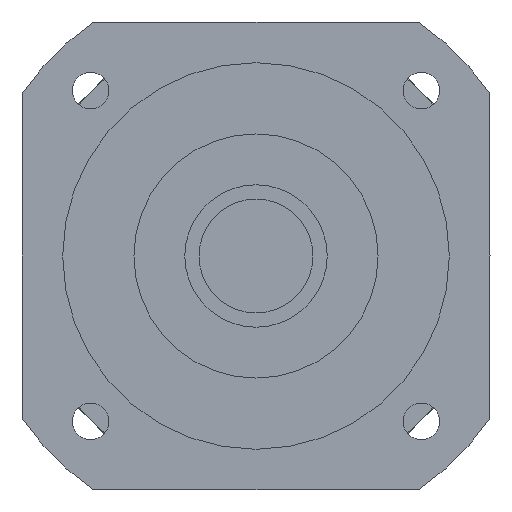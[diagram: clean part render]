
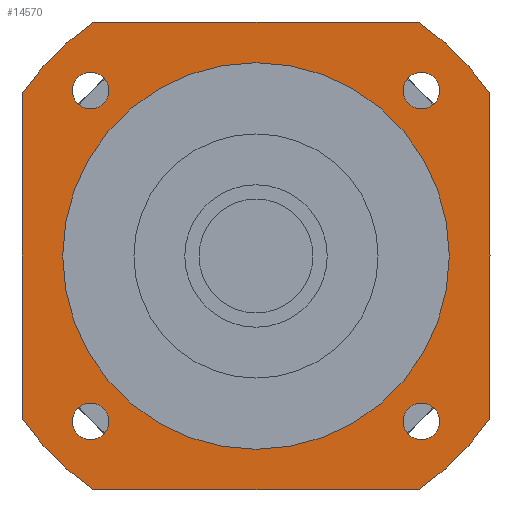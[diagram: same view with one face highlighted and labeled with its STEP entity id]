
A CAD part, left-side view. The second image highlights one B-rep face of the part: STEP entity #14570.
In plain terms, the highlighted planar face has unit normal (-1, 0, 0) as drawn and (0, 0, -1) by its records, which use the part's own axes.
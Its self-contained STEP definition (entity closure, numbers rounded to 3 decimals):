
#11880=CARTESIAN_POINT('',(-39.922,57.5,-65.6));
#11890=VERTEX_POINT('',#11880);
#11920=CARTESIAN_POINT('',(-57.5,57.5,-65.6));
#11930=DIRECTION('',(1.,0.,0.));
#11940=VECTOR('',#11930,1000.);
#11950=LINE('',#11920,#11940);
#11960=CARTESIAN_POINT('',(39.922,57.5,-65.6));
#11970=VERTEX_POINT('',#11960);
#11980=EDGE_CURVE('',#11890,#11970,#11950,.T.);
#12160=CARTESIAN_POINT('',(0.,0.,
-65.6));
#12170=DIRECTION('',(0.,0.,-1.));
#12180=DIRECTION('',(1.,0.,0.));
#12190=AXIS2_PLACEMENT_3D('',#12160,#12170,#12180);
#12200=CIRCLE('',#12190,70.);
#12210=CARTESIAN_POINT('',(57.5,39.922,-65.6));
#12220=VERTEX_POINT('',#12210);
#12230=EDGE_CURVE('',#11970,#12220,#12200,.T.);
#12410=CARTESIAN_POINT('',(57.5,57.5,-65.6));
#12420=DIRECTION('',(0.,-1.,0.));
#12430=VECTOR('',#12420,1000.);
#12440=LINE('',#12410,#12430);
#12450=CARTESIAN_POINT('',(57.5,-39.922,-65.6));
#12460=VERTEX_POINT('',#12450);
#12470=EDGE_CURVE('',#12220,#12460,#12440,.T.);
#12650=CARTESIAN_POINT('',(0.,0.,
-65.6));
#12660=DIRECTION('',(0.,0.,-1.));
#12670=DIRECTION('',(1.,0.,0.));
#12680=AXIS2_PLACEMENT_3D('',#12650,#12660,#12670);
#12690=CIRCLE('',#12680,70.);
#12700=CARTESIAN_POINT('',(39.922,-57.5,-65.6));
#12710=VERTEX_POINT('',#12700);
#12720=EDGE_CURVE('',#12460,#12710,#12690,.T.);
#12900=CARTESIAN_POINT('',(57.5,-57.5,-65.6));
#12910=DIRECTION('',(-1.,0.,0.));
#12920=VECTOR('',#12910,1000.);
#12930=LINE('',#12900,#12920);
#12940=CARTESIAN_POINT('',(-39.922,-57.5,-65.6));
#12950=VERTEX_POINT('',#12940);
#12960=EDGE_CURVE('',#12710,#12950,#12930,.T.);
#13140=CARTESIAN_POINT('',(0.,0.,
-65.6));
#13150=DIRECTION('',(0.,0.,-1.));
#13160=DIRECTION('',(1.,0.,0.));
#13170=AXIS2_PLACEMENT_3D('',#13140,#13150,#13160);
#13180=CIRCLE('',#13170,70.);
#13190=CARTESIAN_POINT('',(-57.5,-39.922,-65.6));
#13200=VERTEX_POINT('',#13190);
#13210=EDGE_CURVE('',#12950,#13200,#13180,.T.);
#13390=CARTESIAN_POINT('',(-57.5,-57.5,-65.6));
#13400=DIRECTION('',(0.,1.,0.));
#13410=VECTOR('',#13400,1000.);
#13420=LINE('',#13390,#13410);
#13430=CARTESIAN_POINT('',(-57.5,39.922,-65.6));
#13440=VERTEX_POINT('',#13430);
#13450=EDGE_CURVE('',#13200,#13440,#13420,.T.);
#13570=CARTESIAN_POINT('',(57.5,57.5,-65.6));
#13580=DIRECTION('',(0.,0.,-1.));
#13590=DIRECTION('',(1.,0.,0.));
#13600=AXIS2_PLACEMENT_3D('',#13570,#13580,#13590);
#13610=PLANE('',#13600);
#13620=CARTESIAN_POINT('',(-40.659,-40.659,-65.6));
#13630=DIRECTION('',(0.,0.,-1.));
#13640=DIRECTION('',(0.,-1.,0.));
#13650=AXIS2_PLACEMENT_3D('',#13620,#13630,#13640);
#13660=CIRCLE('',#13650,4.5);
#13670=CARTESIAN_POINT('',(-40.659,-45.159,-65.6));
#13680=VERTEX_POINT('',#13670);
#13690=CARTESIAN_POINT('',(-40.659,-36.159,-65.6));
#13700=VERTEX_POINT('',#13690);
#13710=EDGE_CURVE('',#13680,#13700,#13660,.T.);
#13720=ORIENTED_EDGE('',*,*,#13710,.F.);
#13730=EDGE_CURVE('',#13700,#13680,#13660,.T.);
#13740=ORIENTED_EDGE('',*,*,#13730,.F.);
#13750=EDGE_LOOP('',(#13740,#13720));
#13760=FACE_BOUND('',#13750,.T.);
#13770=CARTESIAN_POINT('',(-40.659,40.659,-65.6));
#13780=DIRECTION('',(0.,0.,-1.));
#13790=DIRECTION('',(-1.,0.,0.));
#13800=AXIS2_PLACEMENT_3D('',#13770,#13780,#13790);
#13810=CIRCLE('',#13800,4.5);
#13820=CARTESIAN_POINT('',(-45.159,40.659,-65.6));
#13830=VERTEX_POINT('',#13820);
#13840=CARTESIAN_POINT('',(-36.159,40.659,-65.6));
#13850=VERTEX_POINT('',#13840);
#13860=EDGE_CURVE('',#13830,#13850,#13810,.T.);
#13870=ORIENTED_EDGE('',*,*,#13860,.F.);
#13880=EDGE_CURVE('',#13850,#13830,#13810,.T.);
#13890=ORIENTED_EDGE('',*,*,#13880,.F.);
#13900=EDGE_LOOP('',(#13890,#13870));
#13910=FACE_BOUND('',#13900,.T.);
#13920=CARTESIAN_POINT('',(40.659,40.659,-65.6));
#13930=DIRECTION('',(0.,0.,-1.));
#13940=DIRECTION('',(0.,1.,0.));
#13950=AXIS2_PLACEMENT_3D('',#13920,#13930,#13940);
#13960=CIRCLE('',#13950,4.5);
#13970=CARTESIAN_POINT('',(40.659,45.159,-65.6));
#13980=VERTEX_POINT('',#13970);
#13990=CARTESIAN_POINT('',(40.659,36.159,-65.6));
#14000=VERTEX_POINT('',#13990);
#14010=EDGE_CURVE('',#13980,#14000,#13960,.T.);
#14020=ORIENTED_EDGE('',*,*,#14010,.F.);
#14030=EDGE_CURVE('',#14000,#13980,#13960,.T.);
#14040=ORIENTED_EDGE('',*,*,#14030,.F.);
#14050=EDGE_LOOP('',(#14040,#14020));
#14060=FACE_BOUND('',#14050,.T.);
#14070=CARTESIAN_POINT('',(0.,0.,
-65.6));
#14080=DIRECTION('',(0.,0.,1.));
#14090=DIRECTION('',(0.,1.,0.));
#14100=AXIS2_PLACEMENT_3D('',#14070,#14080,#14090);
#14110=CIRCLE('',#14100,47.5);
#14120=CARTESIAN_POINT('',(-47.5,0.,-65.6));
#14130=VERTEX_POINT('',#14120);
#14140=CARTESIAN_POINT('',(47.5,0.,-65.6));
#14150=VERTEX_POINT('',#14140);
#14160=EDGE_CURVE('',#14130,#14150,#14110,.T.);
#14170=ORIENTED_EDGE('',*,*,#14160,.T.);
#14180=CARTESIAN_POINT('',(0.,47.5,-65.6));
#14190=VERTEX_POINT('',#14180);
#14200=EDGE_CURVE('',#14190,#14130,#14110,.T.);
#14210=ORIENTED_EDGE('',*,*,#14200,.T.);
#14220=EDGE_CURVE('',#14150,#14190,#14110,.T.);
#14230=ORIENTED_EDGE('',*,*,#14220,.T.);
#14240=EDGE_LOOP('',(#14230,#14210,#14170));
#14250=FACE_BOUND('',#14240,.T.);
#14260=ORIENTED_EDGE('',*,*,#11980,.T.);
#14270=CARTESIAN_POINT('',(0.,0.,
-65.6));
#14280=DIRECTION('',(0.,0.,-1.));
#14290=DIRECTION('',(1.,0.,0.));
#14300=AXIS2_PLACEMENT_3D('',#14270,#14280,#14290);
#14310=CIRCLE('',#14300,70.);
#14320=EDGE_CURVE('',#13440,#11890,#14310,.T.);
#14330=ORIENTED_EDGE('',*,*,#14320,.T.);
#14340=ORIENTED_EDGE('',*,*,#13450,.T.);
#14350=ORIENTED_EDGE('',*,*,#13210,.T.);
#14360=ORIENTED_EDGE('',*,*,#12960,.T.);
#14370=ORIENTED_EDGE('',*,*,#12720,.T.);
#14380=ORIENTED_EDGE('',*,*,#12470,.T.);
#14390=ORIENTED_EDGE('',*,*,#12230,.T.);
#14400=EDGE_LOOP('',(#14390,#14380,#14370,#14360,#14350,#14340,#14330,
#14260));
#14410=FACE_OUTER_BOUND('',#14400,.T.);
#14420=CARTESIAN_POINT('',(40.659,-40.659,-65.6));
#14430=DIRECTION('',(0.,0.,-1.));
#14440=DIRECTION('',(1.,0.,0.));
#14450=AXIS2_PLACEMENT_3D('',#14420,#14430,#14440);
#14460=CIRCLE('',#14450,4.5);
#14470=CARTESIAN_POINT('',(45.159,-40.659,-65.6));
#14480=VERTEX_POINT('',#14470);
#14490=CARTESIAN_POINT('',(36.159,-40.659,-65.6));
#14500=VERTEX_POINT('',#14490);
#14510=EDGE_CURVE('',#14480,#14500,#14460,.T.);
#14520=ORIENTED_EDGE('',*,*,#14510,.F.);
#14530=EDGE_CURVE('',#14500,#14480,#14460,.T.);
#14540=ORIENTED_EDGE('',*,*,#14530,.F.);
#14550=EDGE_LOOP('',(#14540,#14520));
#14560=FACE_BOUND('',#14550,.T.);
#14570=ADVANCED_FACE('',(#13760,#13910,#14060,#14250,#14410,#14560),
#13610,.T.);
